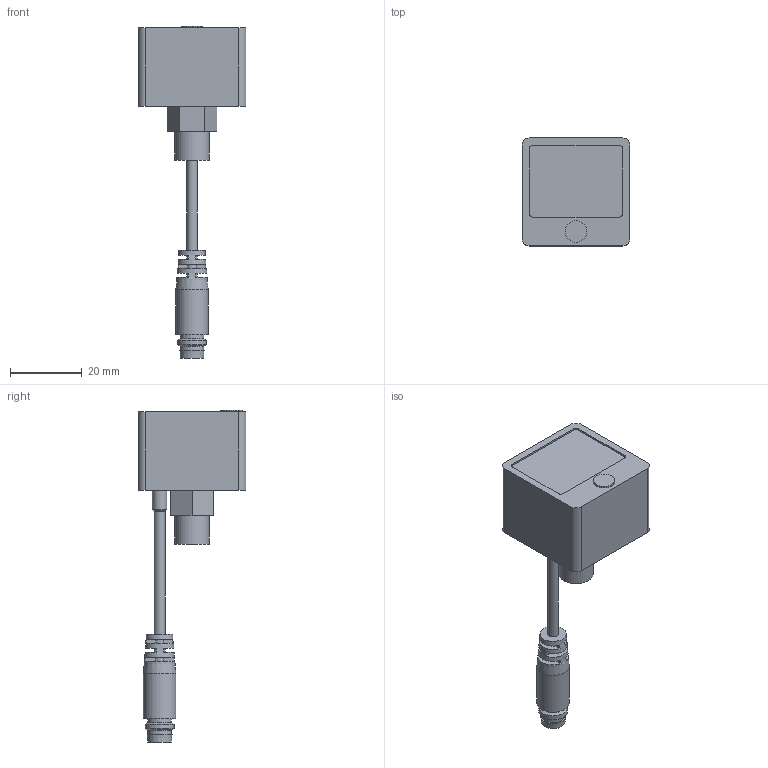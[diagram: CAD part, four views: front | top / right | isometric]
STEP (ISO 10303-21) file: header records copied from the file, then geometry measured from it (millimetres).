
FILE_DESCRIPTION(/* description */ ('VACUOMETRO DIGITALE 0/-1000 kPa CAVO 150mm CONN.M8'),/* implementation_level */ '2;1');
FILE_NAME(/* name */ 'C:\PNX_VAULTFOLDER\Area Tecnica\Disegni\VARIE-3D\Componenti\1900 (vuoto)\DS_61_V_I_F1_A_2.stp',/* time_stamp */ '2019-09-16T09:44:25+02:00',/* author */ ('maniean1'),/* organization */ (''),/* preprocessor_version */ 'ST-DEVELOPER v17',/* originating_system */ 'Autodesk Inventor 2019',/* authorisation */ '');
FILE_SCHEMA (('AUTOMOTIVE_DESIGN { 1 0 10303 214 3 1 1 }'));
Length unit declared in the file: millimetre
Products named in the file (3): DS.61.V.I.F1.A.2; DS.61.V.I.F1.D.0; CONN_4P
Assembly tree (2 placements, depth 2):
  DS.61.V.I.F1.A.2
    DS.61.V.I.F1.D.0
    CONN_4P
Bounding box: 30 x 30 x 92.3 mm (x, y, z)
Volume: 22312.8 mm3; surface area: 6712.4 mm2
Topology: 2 solids, 2 shells, 90 faces, 211 edges, 144 vertices
Faces by surface type: plane 56, cylinder 29, cone 5
Full cylindrical faces by diameter (mm): 1 x4, 3 x1, 4 x1, 4.134 x2, 5.8 x1, 6 x1, 6.5 x2, 8 x1, 9 x1, 9.728 x1
Entity records: 2753 total; most frequent: DIRECTION 481, CARTESIAN_POINT 474, ORIENTED_EDGE 422, EDGE_CURVE 211, AXIS2_PLACEMENT_3D 187, VERTEX_POINT 144, EDGE_LOOP 109, LINE 107
